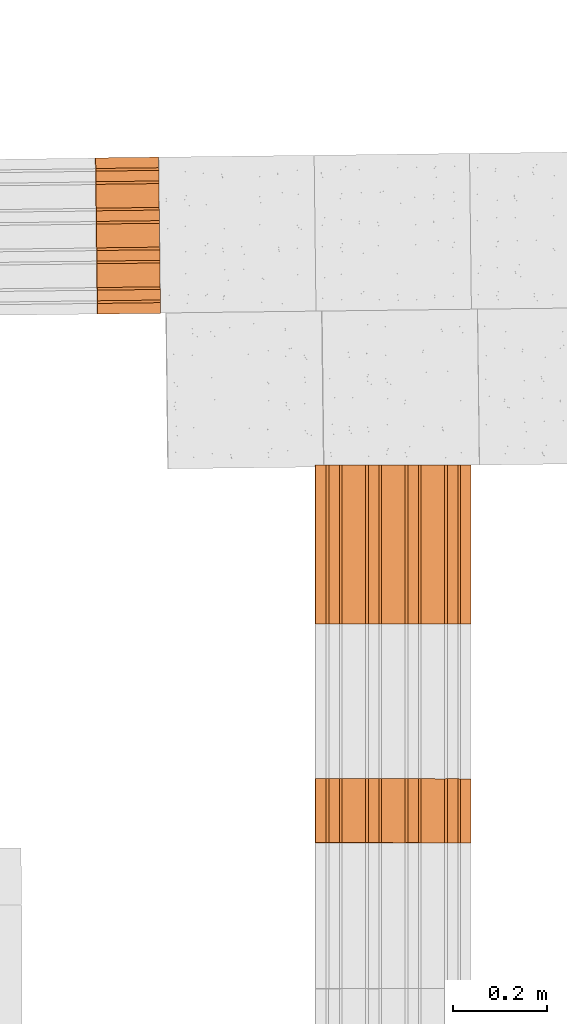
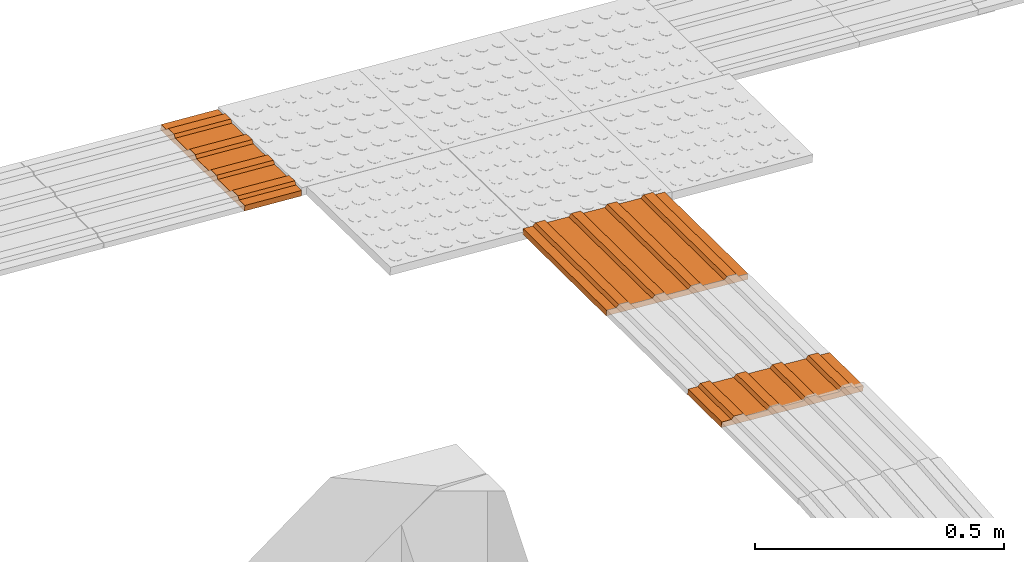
# One storey, part 235 of 237: 3 proxies.
"""IFC2X3 building model written with IfcOpenShell, lengths in millimetres."""

from ifc_helpers import new_model, entity, si_unit, converted_unit, derived_unit, money_unit, direction, frame, origin_with_axes, place, context, subcontext, project, spatial, open_shell, surface_model, type_object, element, save


model = new_model("IFC2X3")

# Units and contexts
model_context = context("Model", 3, precision=0.01, world=origin_with_axes(), true_north=direction((0.0, 1.0)))
body_context = subcontext(model_context, "Body", "Model", "MODEL_VIEW")
ifc_project = project(units=[si_unit("LENGTHUNIT", "METRE", prefix="MILLI"), si_unit("AREAUNIT", "SQUARE_METRE"), si_unit("VOLUMEUNIT", "CUBIC_METRE"), converted_unit("PLANEANGLEUNIT", "DEGREE", entity("IfcPlaneAngleMeasure", 0.0174532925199), si_unit("PLANEANGLEUNIT", "RADIAN"), dimensions=[0, 0, 0, 0, 0, 0, 0]), money_unit("USD"), converted_unit("TIMEUNIT", "Year", entity("IfcTimeMeasure", 31556926.0), si_unit("TIMEUNIT", "SECOND"), dimensions=[0, 0, 1, 0, 0, 0, 0]), si_unit("MASSUNIT", "GRAM", prefix="KILO"), si_unit("THERMODYNAMICTEMPERATUREUNIT", "DEGREE_CELSIUS"), si_unit("LUMINOUSINTENSITYUNIT", "LUMEN"), si_unit("ENERGYUNIT", "JOULE", prefix="MEGA"), derived_unit("THERMALCONDUCTANCEUNIT", [(si_unit("POWERUNIT", "WATT"), 1), (si_unit("LENGTHUNIT", "METRE"), -1), (si_unit("THERMODYNAMICTEMPERATUREUNIT", "KELVIN"), -1)]), derived_unit("SPECIFICHEATCAPACITYUNIT", [(si_unit("ENERGYUNIT", "JOULE"), 1), (si_unit("MASSUNIT", "GRAM", prefix="KILO"), -1), (si_unit("THERMODYNAMICTEMPERATUREUNIT", "KELVIN"), -1)]), derived_unit("MASSDENSITYUNIT", [(si_unit("MASSUNIT", "GRAM", prefix="KILO"), 1), (si_unit("VOLUMEUNIT", "CUBIC_METRE"), -1)])], contexts=[model_context])

# Site, building, storey
site_placement = place(None, origin_with_axes())
site = spatial("IfcSite", under=ifc_project, at=site_placement, Name="Local", CompositionType="ELEMENT")
building_placement = place(site_placement, origin_with_axes())
building = spatial("IfcBuilding", under=site, at=building_placement, Name="Construção", CompositionType="ELEMENT")
storey_placement = place(building_placement, origin_with_axes())
storey = spatial("IfcBuildingStorey", under=building, at=storey_placement, Name="Pavimento Térreo", CompositionType="ELEMENT", Elevation=0.0)

# Proxies
building_element_proxy_type = type_object("IfcBuildingElementProxyType", Name="Piso Direcional 27", PredefinedType="NOTDEFINED")
proxy_1_placement = place(storey_placement, frame((123352.971706, 37545.09016, -7183.99949792), z_axis=(0.0, 0.0, 1.0), x_axis=(-0.999926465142, -0.012127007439, 0.0)))
element("IfcBuildingElementProxy", 1, at=proxy_1_placement, inside=storey, type_object=building_element_proxy_type, Name="Objeto-0055", context=body_context, shape_type="SurfaceModel", body=[
    surface_model("IfcShellBasedSurfaceModel", [(-0.316074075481, -47.334063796, 4.01610191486), (132.714335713, -47.334063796, 14.4858222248), (132.191275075, -41.7318676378, 21.131937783), (-0.839134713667, -41.7318676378, 10.6622174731)], [open_shell([[[0, 1, 2, 3]]])]),
    surface_model("IfcShellBasedSurfaceModel", [(133.760456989, -153.7757908, 1.19359110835), (133.760456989, 176.753782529, 1.19359110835), (132.714335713, 176.753782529, 14.4858222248), (132.714335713, 154.344997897, 14.4858222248), (132.191275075, 148.742801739, 21.131937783), (132.191275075, 126.334017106, 21.131937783), (132.714335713, 120.731820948, 14.4858222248), (132.714335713, 70.3120555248, 14.4858222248), (132.191275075, 64.7098593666, 21.131937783), (132.191275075, 42.3010747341, 21.131937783), (132.714335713, 36.698878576, 14.4858222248), (132.714335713, -13.7208868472, 14.4858222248), (132.191275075, -19.3230830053, 21.131937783), (132.191275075, -41.7318676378, 21.131937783), (132.714335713, -47.334063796, 14.4858222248), (132.714335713, -97.7538292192, 14.4858222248), (132.191275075, -103.356025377, 21.131937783), (132.191275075, -125.76481001, 21.131937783), (132.714335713, -131.367006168, 14.4858222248), (132.714335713, -153.7757908, 14.4858222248)], [open_shell([[[0, 1, 2, 3, 4, 5, 6, 7, 8, 9, 10, 11, 12, 13, 14, 15, 16, 17, 18, 19]]])]),
    surface_model("IfcShellBasedSurfaceModel", [(-0.839134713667, -19.3230830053, 10.6622174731), (132.191275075, -19.3230830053, 21.131937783), (132.714335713, -13.7208868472, 14.4858222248), (-0.316074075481, -13.7208868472, 4.01610191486)], [open_shell([[[0, 1, 2, 3]]])]),
    surface_model("IfcShellBasedSurfaceModel", [(-0.839134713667, -103.356025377, 10.6622174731), (132.191275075, -103.356025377, 21.131937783), (132.714335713, -97.7538292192, 14.4858222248), (-0.316074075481, -97.7538292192, 4.01610191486)], [open_shell([[[0, 1, 2, 3]]])]),
    surface_model("IfcShellBasedSurfaceModel", [(-0.839134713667, 64.7098593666, 10.6622174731), (132.191275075, 64.7098593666, 21.131937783), (132.714335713, 70.3120555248, 14.4858222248), (-0.316074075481, 70.3120555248, 4.01610191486)], [open_shell([[[0, 1, 2, 3]]])]),
    surface_model("IfcShellBasedSurfaceModel", [(-0.316074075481, 36.698878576, 4.01610191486), (132.714335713, 36.698878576, 14.4858222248), (132.191275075, 42.3010747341, 21.131937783), (-0.839134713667, 42.3010747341, 10.6622174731)], [open_shell([[[0, 1, 2, 3]]])]),
    surface_model("IfcShellBasedSurfaceModel", [(-0.316074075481, -131.367006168, 4.01610191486), (132.714335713, -131.367006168, 14.4858222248), (132.191275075, -125.76481001, 21.131937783), (-0.839134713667, -125.76481001, 10.6622174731)], [open_shell([[[0, 1, 2, 3]]])]),
    surface_model("IfcShellBasedSurfaceModel", [(-0.316074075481, 176.753782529, 4.01610191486), (-0.316074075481, 154.344997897, 4.01610191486), (132.714335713, 154.344997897, 14.4858222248), (132.714335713, 176.753782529, 14.4858222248)], [open_shell([[[0, 1, 2, 3]]])]),
    surface_model("IfcShellBasedSurfaceModel", [(-0.316074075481, 120.731820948, 4.01610191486), (132.714335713, 120.731820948, 14.4858222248), (132.191275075, 126.334017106, 21.131937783), (-0.839134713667, 126.334017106, 10.6622174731)], [open_shell([[[0, 1, 2, 3]]])]),
    surface_model("IfcShellBasedSurfaceModel", [(-0.839134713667, 148.742801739, 10.6622174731), (132.191275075, 148.742801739, 21.131937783), (132.714335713, 154.344997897, 14.4858222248), (-0.316074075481, 154.344997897, 4.01610191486)], [open_shell([[[0, 1, 2, 3]]])]),
    surface_model("IfcShellBasedSurfaceModel", [(-0.316074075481, 36.698878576, 4.01610191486), (-0.316074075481, -13.7208868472, 4.01610191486), (132.714335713, -13.7208868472, 14.4858222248), (132.714335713, 36.698878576, 14.4858222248)], [open_shell([[[0, 1, 2, 3]]])]),
    surface_model("IfcShellBasedSurfaceModel", [(-0.316074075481, 120.731820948, 4.01610191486), (-0.316074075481, 70.3120555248, 4.01610191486), (132.714335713, 70.3120555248, 14.4858222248), (132.714335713, 120.731820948, 14.4858222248)], [open_shell([[[0, 1, 2, 3]]])]),
    surface_model("IfcShellBasedSurfaceModel", [(-0.839134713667, 148.742801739, 10.6622174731), (-0.839134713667, 126.334017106, 10.6622174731), (132.191275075, 126.334017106, 21.131937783), (132.191275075, 148.742801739, 21.131937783)], [open_shell([[[0, 1, 2, 3]]])]),
    surface_model("IfcShellBasedSurfaceModel", [(-0.316074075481, 120.731820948, 4.01610191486), (-0.839134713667, 126.334017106, 10.6622174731), (-0.839134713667, 148.742801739, 10.6622174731), (-0.316074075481, 154.344997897, 4.01610191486), (-0.316074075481, 176.753782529, 4.01610191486), (0.73004720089, 176.753782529, -9.27612920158), (0.73004720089, -153.7757908, -9.27612920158), (-0.316074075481, -153.7757908, 4.01610191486), (-0.316074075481, -131.367006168, 4.01610191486), (-0.839134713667, -125.76481001, 10.6622174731), (-0.839134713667, -103.356025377, 10.6622174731), (-0.316074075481, -97.7538292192, 4.01610191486), (-0.316074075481, -47.334063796, 4.01610191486), (-0.839134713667, -41.7318676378, 10.6622174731), (-0.839134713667, -19.3230830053, 10.6622174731), (-0.316074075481, -13.7208868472, 4.01610191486), (-0.316074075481, 36.698878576, 4.01610191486), (-0.839134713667, 42.3010747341, 10.6622174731), (-0.839134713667, 64.7098593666, 10.6622174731), (-0.316074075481, 70.3120555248, 4.01610191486)], [open_shell([[[0, 1, 2, 3, 4, 5, 6, 7, 8, 9, 10, 11, 12, 13, 14, 15, 16, 17, 18, 19]]])]),
    surface_model("IfcShellBasedSurfaceModel", [(132.191275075, -41.7318676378, 21.131937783), (132.191275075, -19.3230830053, 21.131937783), (-0.839134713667, -19.3230830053, 10.6622174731), (-0.839134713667, -41.7318676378, 10.6622174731)], [open_shell([[[0, 1, 2, 3]]])]),
    surface_model("IfcShellBasedSurfaceModel", [(-0.316074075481, -47.334063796, 4.01610191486), (-0.316074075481, -97.7538292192, 4.01610191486), (132.714335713, -97.7538292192, 14.4858222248), (132.714335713, -47.334063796, 14.4858222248)], [open_shell([[[0, 1, 2, 3]]])]),
    surface_model("IfcShellBasedSurfaceModel", [(132.191275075, 42.3010747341, 21.131937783), (132.191275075, 64.7098593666, 21.131937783), (-0.839134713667, 64.7098593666, 10.6622174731), (-0.839134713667, 42.3010747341, 10.6622174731)], [open_shell([[[0, 1, 2, 3]]])]),
    surface_model("IfcShellBasedSurfaceModel", [(132.191275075, -125.76481001, 21.131937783), (132.191275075, -103.356025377, 21.131937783), (-0.839134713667, -103.356025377, 10.6622174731), (-0.839134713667, -125.76481001, 10.6622174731)], [open_shell([[[0, 1, 2, 3]]])]),
    surface_model("IfcShellBasedSurfaceModel", [(133.760456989, 176.753782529, 1.19359110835), (0.73004720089, 176.753782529, -9.27612920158), (-0.316074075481, 176.753782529, 4.01610191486), (132.714335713, 176.753782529, 14.4858222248)], [open_shell([[[0, 1, 2, 3]]])]),
    surface_model("IfcShellBasedSurfaceModel", [(133.760456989, -153.7757908, 1.19359110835), (0.73004720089, -153.7757908, -9.27612920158), (0.73004720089, 176.753782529, -9.27612920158), (133.760456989, 176.753782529, 1.19359110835)], [open_shell([[[0, 1, 2, 3]]])]),
    surface_model("IfcShellBasedSurfaceModel", [(132.714335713, -153.7757908, 14.4858222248), (132.714335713, -131.367006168, 14.4858222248), (-0.316074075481, -131.367006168, 4.01610191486), (-0.316074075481, -153.7757908, 4.01610191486)], [open_shell([[[0, 1, 2, 3]]])]),
    surface_model("IfcShellBasedSurfaceModel", [(0.73004720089, -153.7757908, -9.27612920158), (133.760456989, -153.7757908, 1.19359110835), (132.714335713, -153.7757908, 14.4858222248), (-0.316074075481, -153.7757908, 4.01610191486)], [open_shell([[[0, 1, 2, 3]]])]),
])
proxy_2_placement = place(storey_placement, frame((123836.79662, 36382.8764414, -7201.19867715), z_axis=(0.0, 0.0, 1.0), x_axis=(0.0, -1.0, 0.0)))
element("IfcBuildingElementProxy", 2, at=proxy_2_placement, inside=storey, type_object=building_element_proxy_type, Name="Objeto-0055", context=body_context, shape_type="SurfaceModel", body=[
    surface_model("IfcShellBasedSurfaceModel", [(-0.06669038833, -46.8098794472, 7.64196157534), (135.488361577, -46.8098794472, 8.82493259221), (135.434100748, -40.7216835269, 15.0426077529), (-0.120951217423, -40.7216835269, 13.859636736)], [open_shell([[[0, 1, 2, 3]]])]),
    surface_model("IfcShellBasedSurfaceModel", [(135.533224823, -153.790778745, 3.68411379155), (135.75415696, 175.23662949, -21.6322014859), (135.638146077, 176.259549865, -8.33867098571), (135.623167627, 153.952606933, -6.62231062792), (135.561417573, 148.887331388, 0.453544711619), (135.546439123, 126.580388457, 2.16990506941), (135.600699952, 120.492192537, -4.04777009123), (135.56699844, 70.3015709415, -0.185959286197), (135.505248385, 65.2362953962, 6.88989605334), (135.490269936, 42.929352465, 8.60625641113), (135.544530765, 36.8411565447, 2.38858125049), (135.510829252, -13.3494650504, 6.25039205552), (135.449079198, -18.4147405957, 13.3262473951), (135.434100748, -40.7216835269, 15.0426077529), (135.488361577, -46.8098794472, 8.82493259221), (135.454660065, -97.0005010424, 12.6867433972), (135.392910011, -102.065776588, 19.7625987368), (135.377931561, -124.372719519, 21.4789590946), (135.43219239, -130.460915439, 15.2612839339), (135.41721394, -152.76785837, 16.9776442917)], [open_shell([[[0, 1, 2, 3, 4, 5, 6, 7, 8, 9, 10, 11, 12, 13, 14, 15, 16, 17, 18, 19]]])]),
    surface_model("IfcShellBasedSurfaceModel", [(-0.105972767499, -18.4147405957, 12.1432763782), (135.449079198, -18.4147405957, 13.3262473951), (135.510829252, -13.3494650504, 6.25039205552), (-0.0442227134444, -13.3494650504, 5.06742103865)], [open_shell([[[0, 1, 2, 3]]])]),
    surface_model("IfcShellBasedSurfaceModel", [(-0.162141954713, -102.065776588, 18.5796277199), (135.392910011, -102.065776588, 19.7625987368), (135.454660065, -97.0005010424, 12.6867433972), (-0.100391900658, -97.0005010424, 11.5037723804)], [open_shell([[[0, 1, 2, 3]]])]),
    surface_model("IfcShellBasedSurfaceModel", [(-0.049803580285, 65.2362953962, 5.70692503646), (135.505248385, 65.2362953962, 6.88989605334), (135.56699844, 70.3015709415, -0.185959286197), (0.0119464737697, 70.3015709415, -1.36893030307)], [open_shell([[[0, 1, 2, 3]]])]),
    surface_model("IfcShellBasedSurfaceModel", [(-0.010521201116, 36.8411565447, 1.20561023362), (135.544530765, 36.8411565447, 2.38858125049), (135.490269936, 42.929352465, 8.60625641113), (-0.0647820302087, 42.929352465, 7.42328539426)], [open_shell([[[0, 1, 2, 3]]])]),
    surface_model("IfcShellBasedSurfaceModel", [(-0.122859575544, -130.460915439, 14.0783129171), (135.43219239, -130.460915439, 15.2612839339), (135.377931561, -124.372719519, 21.4789590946), (-0.177120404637, -124.372719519, 20.2959880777)], [open_shell([[[0, 1, 2, 3]]])]),
    surface_model("IfcShellBasedSurfaceModel", [(0.0830941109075, 176.259549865, -9.52164200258), (0.0681156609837, 153.952606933, -7.80528164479), (135.623167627, 153.952606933, -6.62231062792), (135.638146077, 176.259549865, -8.33867098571)], [open_shell([[[0, 1, 2, 3]]])]),
    surface_model("IfcShellBasedSurfaceModel", [(0.0456479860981, 120.492192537, -5.2307411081), (135.600699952, 120.492192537, -4.04777009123), (135.546439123, 126.580388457, 2.16990506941), (-0.00861284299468, 126.580388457, 0.986934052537)], [open_shell([[[0, 1, 2, 3]]])]),
    surface_model("IfcShellBasedSurfaceModel", [(0.00636560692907, 148.887331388, -0.729426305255), (135.561417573, 148.887331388, 0.453544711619), (135.623167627, 153.952606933, -6.62231062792), (0.0681156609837, 153.952606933, -7.80528164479)], [open_shell([[[0, 1, 2, 3]]])]),
    surface_model("IfcShellBasedSurfaceModel", [(-0.010521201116, 36.8411565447, 1.20561023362), (-0.0442227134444, -13.3494650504, 5.06742103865), (135.510829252, -13.3494650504, 6.25039205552), (135.544530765, 36.8411565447, 2.38858125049)], [open_shell([[[0, 1, 2, 3]]])]),
    surface_model("IfcShellBasedSurfaceModel", [(0.0456479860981, 120.492192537, -5.2307411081), (0.0119464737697, 70.3015709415, -1.36893030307), (135.56699844, 70.3015709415, -0.185959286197), (135.600699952, 120.492192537, -4.04777009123)], [open_shell([[[0, 1, 2, 3]]])]),
    surface_model("IfcShellBasedSurfaceModel", [(0.00636560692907, 148.887331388, -0.729426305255), (-0.00861284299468, 126.580388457, 0.986934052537), (135.546439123, 126.580388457, 2.16990506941), (135.561417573, 148.887331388, 0.453544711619)], [open_shell([[[0, 1, 2, 3]]])]),
    surface_model("IfcShellBasedSurfaceModel", [(0.0456479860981, 120.492192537, -5.2307411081), (-0.00861284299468, 126.580388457, 0.986934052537), (0.00636560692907, 148.887331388, -0.729426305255), (0.0681156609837, 153.952606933, -7.80528164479), (0.0830941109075, 176.259549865, -9.52164200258), (0.199104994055, 175.23662949, -22.8151725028), (-0.0218271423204, -153.790778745, 2.50114277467), (-0.137838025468, -152.76785837, 15.7946732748), (-0.122859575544, -130.460915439, 14.0783129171), (-0.177120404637, -124.372719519, 20.2959880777), (-0.162141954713, -102.065776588, 18.5796277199), (-0.100391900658, -97.0005010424, 11.5037723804), (-0.06669038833, -46.8098794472, 7.64196157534), (-0.120951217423, -40.7216835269, 13.859636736), (-0.105972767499, -18.4147405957, 12.1432763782), (-0.0442227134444, -13.3494650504, 5.06742103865), (-0.010521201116, 36.8411565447, 1.20561023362), (-0.0647820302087, 42.929352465, 7.42328539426), (-0.049803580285, 65.2362953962, 5.70692503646), (0.0119464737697, 70.3015709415, -1.36893030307)], [open_shell([[[0, 1, 2, 3, 4, 5, 6, 7, 8, 9, 10, 11, 12, 13, 14, 15, 16, 17, 18, 19]]])]),
    surface_model("IfcShellBasedSurfaceModel", [(135.434100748, -40.7216835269, 15.0426077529), (135.449079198, -18.4147405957, 13.3262473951), (-0.105972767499, -18.4147405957, 12.1432763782), (-0.120951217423, -40.7216835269, 13.859636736)], [open_shell([[[0, 1, 2, 3]]])]),
    surface_model("IfcShellBasedSurfaceModel", [(-0.06669038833, -46.8098794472, 7.64196157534), (-0.100391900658, -97.0005010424, 11.5037723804), (135.454660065, -97.0005010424, 12.6867433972), (135.488361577, -46.8098794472, 8.82493259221)], [open_shell([[[0, 1, 2, 3]]])]),
    surface_model("IfcShellBasedSurfaceModel", [(135.490269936, 42.929352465, 8.60625641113), (135.505248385, 65.2362953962, 6.88989605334), (-0.049803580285, 65.2362953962, 5.70692503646), (-0.0647820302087, 42.929352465, 7.42328539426)], [open_shell([[[0, 1, 2, 3]]])]),
    surface_model("IfcShellBasedSurfaceModel", [(135.377931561, -124.372719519, 21.4789590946), (135.392910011, -102.065776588, 19.7625987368), (-0.162141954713, -102.065776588, 18.5796277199), (-0.177120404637, -124.372719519, 20.2959880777)], [open_shell([[[0, 1, 2, 3]]])]),
    surface_model("IfcShellBasedSurfaceModel", [(135.75415696, 175.23662949, -21.6322014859), (0.199104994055, 175.23662949, -22.8151725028), (0.0830941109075, 176.259549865, -9.52164200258), (135.638146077, 176.259549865, -8.33867098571)], [open_shell([[[0, 1, 2, 3]]])]),
    surface_model("IfcShellBasedSurfaceModel", [(135.533224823, -153.790778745, 3.68411379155), (-0.0218271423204, -153.790778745, 2.50114277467), (0.199104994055, 175.23662949, -22.8151725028), (135.75415696, 175.23662949, -21.6322014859)], [open_shell([[[0, 1, 2, 3]]])]),
    surface_model("IfcShellBasedSurfaceModel", [(135.41721394, -152.76785837, 16.9776442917), (135.43219239, -130.460915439, 15.2612839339), (-0.122859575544, -130.460915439, 14.0783129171), (-0.137838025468, -152.76785837, 15.7946732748)], [open_shell([[[0, 1, 2, 3]]])]),
    surface_model("IfcShellBasedSurfaceModel", [(-0.0218271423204, -153.790778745, 2.50114277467), (135.533224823, -153.790778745, 3.68411379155), (135.41721394, -152.76785837, 16.9776442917), (-0.137838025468, -152.76785837, 15.7946732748)], [open_shell([[[0, 1, 2, 3]]])]),
])
proxy_3_placement = place(storey_placement, frame((123836.801621, 37046.9112312, -7209.63502658), z_axis=(0.0, 0.0, 1.0), x_axis=(0.0, -1.0, 0.0)))
element("IfcBuildingElementProxy", 3, at=proxy_3_placement, inside=storey, type_object=building_element_proxy_type, Name="Objeto-0055", context=body_context, shape_type="SurfaceModel", body=[
    surface_model("IfcShellBasedSurfaceModel", [(-0.06669038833, -46.8098794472, 7.64196157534), (336.054773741, -46.8098794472, 10.5752491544), (336.000512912, -40.7216835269, 16.7929243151), (-0.120951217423, -40.7216835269, 13.859636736)], [open_shell([[[0, 1, 2, 3]]])]),
    surface_model("IfcShellBasedSurfaceModel", [(336.099636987, -153.790778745, 5.43443035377), (336.320569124, 175.23662949, -19.8818849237), (336.204558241, 176.259549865, -6.58835442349), (336.189579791, 153.952606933, -4.8719940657), (336.127829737, 148.887331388, 2.20386127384), (336.112851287, 126.580388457, 3.92022163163), (336.167112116, 120.492192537, -2.29745352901), (336.133410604, 70.3015709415, 1.56435727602), (336.071660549, 65.2362953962, 8.64021261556), (336.0566821, 42.929352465, 10.3565729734), (336.110942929, 36.8411565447, 4.13889781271), (336.077241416, -13.3494650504, 8.00070861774), (336.015491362, -18.4147405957, 15.0765639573), (336.000512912, -40.7216835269, 16.7929243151), (336.054773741, -46.8098794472, 10.5752491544), (336.021072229, -97.0005010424, 14.4370599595), (335.959322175, -102.065776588, 21.512915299), (335.944343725, -124.372719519, 23.2292756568), (335.998604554, -130.460915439, 17.0116004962), (335.983626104, -152.76785837, 18.7279608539)], [open_shell([[[0, 1, 2, 3, 4, 5, 6, 7, 8, 9, 10, 11, 12, 13, 14, 15, 16, 17, 18, 19]]])]),
    surface_model("IfcShellBasedSurfaceModel", [(-0.105972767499, -18.4147405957, 12.1432763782), (336.015491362, -18.4147405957, 15.0765639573), (336.077241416, -13.3494650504, 8.00070861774), (-0.0442227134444, -13.3494650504, 5.06742103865)], [open_shell([[[0, 1, 2, 3]]])]),
    surface_model("IfcShellBasedSurfaceModel", [(-0.162141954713, -102.065776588, 18.5796277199), (335.959322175, -102.065776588, 21.512915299), (336.021072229, -97.0005010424, 14.4370599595), (-0.100391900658, -97.0005010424, 11.5037723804)], [open_shell([[[0, 1, 2, 3]]])]),
    surface_model("IfcShellBasedSurfaceModel", [(-0.049803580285, 65.2362953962, 5.70692503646), (336.071660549, 65.2362953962, 8.64021261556), (336.133410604, 70.3015709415, 1.56435727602), (0.0119464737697, 70.3015709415, -1.36893030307)], [open_shell([[[0, 1, 2, 3]]])]),
    surface_model("IfcShellBasedSurfaceModel", [(-0.010521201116, 36.8411565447, 1.20561023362), (336.110942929, 36.8411565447, 4.13889781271), (336.0566821, 42.929352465, 10.3565729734), (-0.0647820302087, 42.929352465, 7.42328539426)], [open_shell([[[0, 1, 2, 3]]])]),
    surface_model("IfcShellBasedSurfaceModel", [(-0.122859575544, -130.460915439, 14.0783129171), (335.998604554, -130.460915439, 17.0116004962), (335.944343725, -124.372719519, 23.2292756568), (-0.177120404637, -124.372719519, 20.2959880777)], [open_shell([[[0, 1, 2, 3]]])]),
    surface_model("IfcShellBasedSurfaceModel", [(0.0830941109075, 176.259549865, -9.52164200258), (0.0681156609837, 153.952606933, -7.80528164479), (336.189579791, 153.952606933, -4.8719940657), (336.204558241, 176.259549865, -6.58835442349)], [open_shell([[[0, 1, 2, 3]]])]),
    surface_model("IfcShellBasedSurfaceModel", [(0.0456479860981, 120.492192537, -5.2307411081), (336.167112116, 120.492192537, -2.29745352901), (336.112851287, 126.580388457, 3.92022163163), (-0.00861284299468, 126.580388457, 0.986934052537)], [open_shell([[[0, 1, 2, 3]]])]),
    surface_model("IfcShellBasedSurfaceModel", [(0.00636560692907, 148.887331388, -0.729426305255), (336.127829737, 148.887331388, 2.20386127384), (336.189579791, 153.952606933, -4.8719940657), (0.0681156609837, 153.952606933, -7.80528164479)], [open_shell([[[0, 1, 2, 3]]])]),
    surface_model("IfcShellBasedSurfaceModel", [(-0.010521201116, 36.8411565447, 1.20561023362), (-0.0442227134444, -13.3494650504, 5.06742103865), (336.077241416, -13.3494650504, 8.00070861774), (336.110942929, 36.8411565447, 4.13889781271)], [open_shell([[[0, 1, 2, 3]]])]),
    surface_model("IfcShellBasedSurfaceModel", [(0.0456479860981, 120.492192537, -5.2307411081), (0.0119464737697, 70.3015709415, -1.36893030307), (336.133410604, 70.3015709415, 1.56435727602), (336.167112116, 120.492192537, -2.29745352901)], [open_shell([[[0, 1, 2, 3]]])]),
    surface_model("IfcShellBasedSurfaceModel", [(0.00636560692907, 148.887331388, -0.729426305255), (-0.00861284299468, 126.580388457, 0.986934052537), (336.112851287, 126.580388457, 3.92022163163), (336.127829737, 148.887331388, 2.20386127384)], [open_shell([[[0, 1, 2, 3]]])]),
    surface_model("IfcShellBasedSurfaceModel", [(0.0456479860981, 120.492192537, -5.2307411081), (-0.00861284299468, 126.580388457, 0.986934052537), (0.00636560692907, 148.887331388, -0.729426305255), (0.0681156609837, 153.952606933, -7.80528164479), (0.0830941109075, 176.259549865, -9.52164200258), (0.199104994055, 175.23662949, -22.8151725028), (-0.0218271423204, -153.790778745, 2.50114277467), (-0.137838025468, -152.76785837, 15.7946732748), (-0.122859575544, -130.460915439, 14.0783129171), (-0.177120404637, -124.372719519, 20.2959880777), (-0.162141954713, -102.065776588, 18.5796277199), (-0.100391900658, -97.0005010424, 11.5037723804), (-0.06669038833, -46.8098794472, 7.64196157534), (-0.120951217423, -40.7216835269, 13.859636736), (-0.105972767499, -18.4147405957, 12.1432763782), (-0.0442227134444, -13.3494650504, 5.06742103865), (-0.010521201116, 36.8411565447, 1.20561023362), (-0.0647820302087, 42.929352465, 7.42328539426), (-0.049803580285, 65.2362953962, 5.70692503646), (0.0119464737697, 70.3015709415, -1.36893030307)], [open_shell([[[0, 1, 2, 3, 4, 5, 6, 7, 8, 9, 10, 11, 12, 13, 14, 15, 16, 17, 18, 19]]])]),
    surface_model("IfcShellBasedSurfaceModel", [(336.000512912, -40.7216835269, 16.7929243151), (336.015491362, -18.4147405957, 15.0765639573), (-0.105972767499, -18.4147405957, 12.1432763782), (-0.120951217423, -40.7216835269, 13.859636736)], [open_shell([[[0, 1, 2, 3]]])]),
    surface_model("IfcShellBasedSurfaceModel", [(-0.06669038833, -46.8098794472, 7.64196157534), (-0.100391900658, -97.0005010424, 11.5037723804), (336.021072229, -97.0005010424, 14.4370599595), (336.054773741, -46.8098794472, 10.5752491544)], [open_shell([[[0, 1, 2, 3]]])]),
    surface_model("IfcShellBasedSurfaceModel", [(336.0566821, 42.929352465, 10.3565729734), (336.071660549, 65.2362953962, 8.64021261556), (-0.049803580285, 65.2362953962, 5.70692503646), (-0.0647820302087, 42.929352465, 7.42328539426)], [open_shell([[[0, 1, 2, 3]]])]),
    surface_model("IfcShellBasedSurfaceModel", [(335.944343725, -124.372719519, 23.2292756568), (335.959322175, -102.065776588, 21.512915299), (-0.162141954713, -102.065776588, 18.5796277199), (-0.177120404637, -124.372719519, 20.2959880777)], [open_shell([[[0, 1, 2, 3]]])]),
    surface_model("IfcShellBasedSurfaceModel", [(336.320569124, 175.23662949, -19.8818849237), (0.199104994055, 175.23662949, -22.8151725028), (0.0830941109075, 176.259549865, -9.52164200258), (336.204558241, 176.259549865, -6.58835442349)], [open_shell([[[0, 1, 2, 3]]])]),
    surface_model("IfcShellBasedSurfaceModel", [(336.099636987, -153.790778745, 5.43443035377), (-0.0218271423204, -153.790778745, 2.50114277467), (0.199104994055, 175.23662949, -22.8151725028), (336.320569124, 175.23662949, -19.8818849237)], [open_shell([[[0, 1, 2, 3]]])]),
    surface_model("IfcShellBasedSurfaceModel", [(335.983626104, -152.76785837, 18.7279608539), (335.998604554, -130.460915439, 17.0116004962), (-0.122859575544, -130.460915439, 14.0783129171), (-0.137838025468, -152.76785837, 15.7946732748)], [open_shell([[[0, 1, 2, 3]]])]),
    surface_model("IfcShellBasedSurfaceModel", [(-0.0218271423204, -153.790778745, 2.50114277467), (336.099636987, -153.790778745, 5.43443035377), (335.983626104, -152.76785837, 18.7279608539), (-0.137838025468, -152.76785837, 15.7946732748)], [open_shell([[[0, 1, 2, 3]]])]),
])

save(model, "model.ifc")
